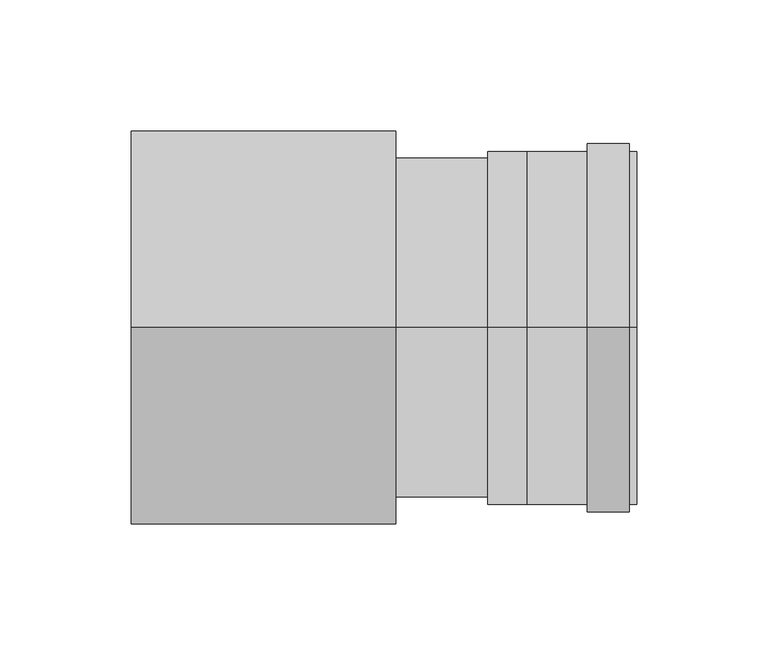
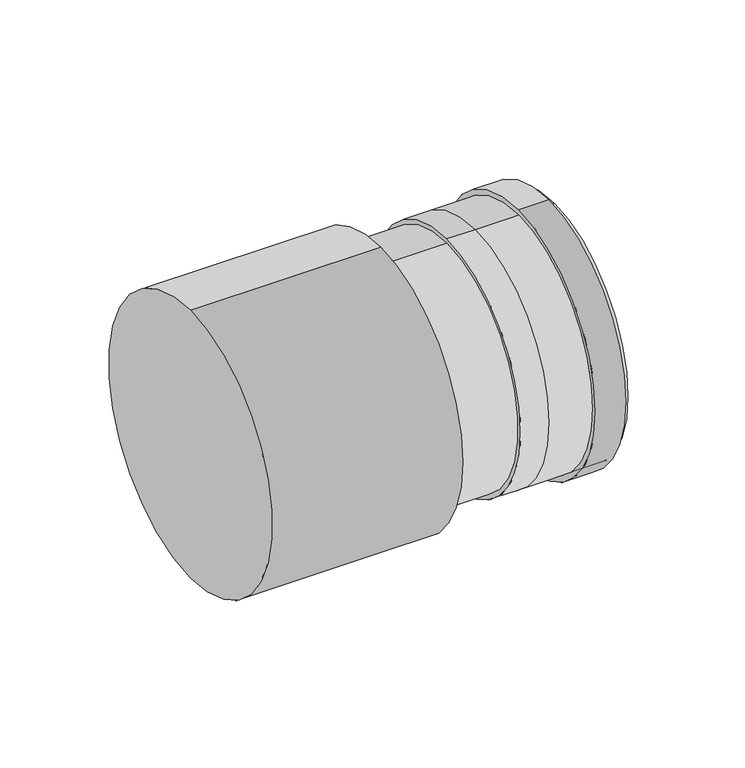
"""IFC4 building model written with IfcOpenShell, lengths in millimetres: duct fitting geometry, NLRS_57_DUF_UN_Twinline Reducer_M&G : ø080-100-150-200."""

from ifc_helpers import new_model, si_unit, point, frame, origin, origin_2d, place, context, project, spatial, polyline, circle_curve, trimmed, segment, composite_curve, outline, extrude, source, transform, mapped, element, save
from ifc_brep_helpers import plane_surface, cylinder_surface, revolved_surface, advanced_brep


def duct_fitting_6345bc61(model_context):
    return source(origin(), model_context, "Body", "SolidModel", [
        advanced_brep(
        [(101.0, 0.0, 65.0), (101.0, 0.0, -65.0), (136.0, 0.0, -65.0), (136.0, 0.0, 65.0), (151.0, 0.0, 65.5), (151.0, 0.0, -65.5), (136.0, 0.0, 67.5), (136.0, 0.0, -67.5), (151.0, 0.0, -67.5), (151.0, 0.0, 67.5), (193.0, 0.0, 67.5), (193.0, 0.0, -67.5), (193.0, 0.0, -65.5), (193.0, 0.0, 65.5)],
        [
            (0, 1, circle_curve(frame((101.0, 0.0, 0.0), z_axis=(-1.0, 0.0, 0.0), x_axis=(0.0, 0.0, -1.0)), 65.0)),
            (1, 0, circle_curve(frame((101.0, 0.0, 0.0), z_axis=(-1.0, 0.0, 0.0), x_axis=(0.0, 0.0, -1.0)), 65.0)),
            (1, 2),
            (2, 3, circle_curve(frame((136.0, 0.0, 0.0), z_axis=(-1.0, 0.0, 0.0), x_axis=(0.0, 0.0, -1.0)), 65.0)),
            (3, 0),
            (3, 2, circle_curve(frame((136.0, 0.0, 0.0), z_axis=(-1.0, 0.0, 0.0), x_axis=(0.0, 0.0, -1.0)), 65.0)),
            (4, 5, circle_curve(frame((151.0, 0.0, 0.0), z_axis=(1.0, 0.0, 0.0), x_axis=(0.0, 0.0, 1.0)), 65.5)),
            (5, 4, circle_curve(frame((151.0, 0.0, 0.0), z_axis=(1.0, 0.0, 0.0), x_axis=(0.0, 0.0, 1.0)), 65.5)),
            (6, 7, circle_curve(frame((136.0, 0.0, 0.0), z_axis=(1.0, 0.0, 0.0), x_axis=(0.0, 0.0, -1.0)), 67.5)),
            (7, 8),
            (8, 9, circle_curve(frame((151.0, 0.0, 0.0), z_axis=(-1.0, 0.0, 0.0), x_axis=(0.0, 0.0, -1.0)), 67.5)),
            (9, 6),
            (7, 6, circle_curve(frame((136.0, 0.0, 0.0), z_axis=(1.0, 0.0, 0.0), x_axis=(0.0, 0.0, -1.0)), 67.5)),
            (9, 8, circle_curve(frame((151.0, 0.0, 0.0), z_axis=(-1.0, 0.0, 0.0), x_axis=(0.0, 0.0, -1.0)), 67.5)),
            (10, 11, circle_curve(frame((193.0, 0.0, 0.0), z_axis=(1.0, 0.0, 0.0), x_axis=(0.0, 0.0, -1.0)), 67.5)),
            (11, 10, circle_curve(frame((193.0, 0.0, 0.0), z_axis=(1.0, 0.0, 0.0), x_axis=(0.0, 0.0, -1.0)), 67.5)),
            (12, 13, circle_curve(frame((193.0, 0.0, 0.0), z_axis=(-1.0, 0.0, 0.0), x_axis=(0.0, 0.0, 1.0)), 65.5)),
            (13, 12, circle_curve(frame((193.0, 0.0, 0.0), z_axis=(-1.0, 0.0, 0.0), x_axis=(0.0, 0.0, 1.0)), 65.5)),
            (10, 9),
            (8, 11),
            (12, 5),
            (4, 13),
        ],
        [
            plane_surface(frame((101.0, 0.0, -65.0), z_axis=(-1.0, 0.0, 0.0), x_axis=(0.0, -1.0, 0.0))),
            cylinder_surface(frame((101.0, 0.0, 0.0), z_axis=(1.0, 0.0, 0.0), x_axis=(0.0, 0.0, -1.0)), 65.0),
            plane_surface(frame((151.0, 0.0, -67.5), z_axis=(1.0, 0.0, 0.0), x_axis=(0.0, 1.0, 0.0))),
            cylinder_surface(frame((136.0, 0.0, 0.0), z_axis=(1.0, 0.0, 0.0), x_axis=(0.0, 0.0, -1.0)), 67.5),
            plane_surface(frame((193.0, 0.0, -67.5), z_axis=(1.0, 0.0, 0.0), x_axis=(0.0, 1.0, 0.0))),
            cylinder_surface(frame((151.0, 0.0, 0.0), z_axis=(1.0, 0.0, 0.0), x_axis=(0.0, 0.0, -1.0)), 67.5),
            revolved_surface(polyline([(151.0, 0.0, 65.5), (193.0, 0.0, 65.5)]), (201.0, 0.0, 0.0), (-1.0, 0.0, 0.0)),
            plane_surface(frame((136.0, 0.0, -67.5), z_axis=(-1.0, 0.0, 0.0), x_axis=(0.0, -1.0, 0.0))),
        ],
        [
            (0, [[1, 2]]),
            (1, [[-2, 3, 4, 5]]),
            (1, [[-1, -5, 6, -3]]),
            (2, [[7, 8]]),
            (3, [[9, 10, 11, 12]]),
            (3, [[13, -12, 14, -10]]),
            (4, [[15, 16], [17, 18]]),
            (5, [[-15, 19, -11, 20]]),
            (5, [[-16, -20, -14, -19]]),
            (6, [[21, -7, 22, -17]]),
            (6, [[-21, -18, -22, -8]]),
            (7, [[-13, -9], [-4, -6]]),
        ],
    ),
        extrude(outline(composite_curve([segment(trimmed(circle_curve(origin_2d(), 70.5), [point((0.0, 70.5))], [point((0.0, -70.5))], False, "CARTESIAN"), True, "CONTINUOUS"), segment(trimmed(circle_curve(origin_2d(), 70.5), [point((0.0, -70.5))], [point((0.0, 70.5))], False, "CARTESIAN"), True, "CONTINUOUS")], self_intersect=False), holes=[composite_curve([segment(trimmed(circle_curve(origin_2d(), 67.5), [point((0.0, -67.5))], [point((0.0, 67.5))], True, "CARTESIAN"), True, "CONTINUOUS"), segment(trimmed(circle_curve(origin_2d(), 67.5), [point((0.0, 67.5))], [point((0.0, -67.5))], True, "CARTESIAN"), True, "CONTINUOUS")], self_intersect=False)]), frame((174.0, 0.0, 0.0), z_axis=(1.0, 0.0, 0.0), x_axis=(0.0, 1.0, 0.0)), (0.0, 0.0, 1.0), 16.0),
        extrude(outline(composite_curve([segment(trimmed(circle_curve(origin_2d(), 75.0), [point((0.0, -75.0))], [point((0.0, 75.0))], False, "CARTESIAN"), True, "CONTINUOUS"), segment(trimmed(circle_curve(origin_2d(), 75.0), [point((0.0, 75.0))], [point((0.0, -75.0))], False, "CARTESIAN"), True, "CONTINUOUS")], self_intersect=False)), frame((0.0, 0.0, 0.0), z_axis=(1.0, 0.0, 0.0), x_axis=(0.0, 1.0, 0.0)), (0.0, 0.0, 1.0), 101.0),
    ])


if __name__ == "__main__":
    model = new_model("IFC4")
    model_context = context("Model", 3, world=origin())
    ifc_project = project(units=[si_unit("LENGTHUNIT", "METRE", prefix="MILLI")], contexts=[model_context])
    site = spatial("IfcSite", under=ifc_project)
    building = spatial("IfcBuilding", under=site)
    placement = place(None, origin())
    duct_fitting_shape = duct_fitting_6345bc61(model_context)
    element("IfcDuctFitting", 1, ObjectType="NLRS_57_DUF_UN_Twinline Reducer_M&G : ø080-100-150-200", at=placement, inside=building, context=model_context, shape_type="MappedRepresentation", body=[
        mapped(duct_fitting_shape, transform((0.0, 0.0, 0.0), x_axis=(1.0, 0.0, 0.0), y_axis=(0.0, 1.0, 0.0), z_axis=(0.0, 0.0, 1.0))),
    ])
    save(model, "model.ifc")
